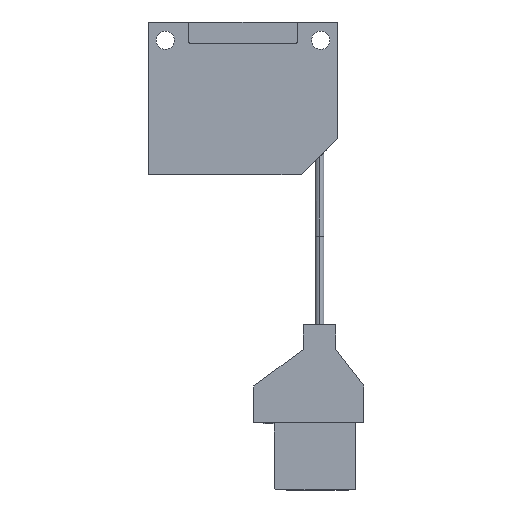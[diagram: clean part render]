
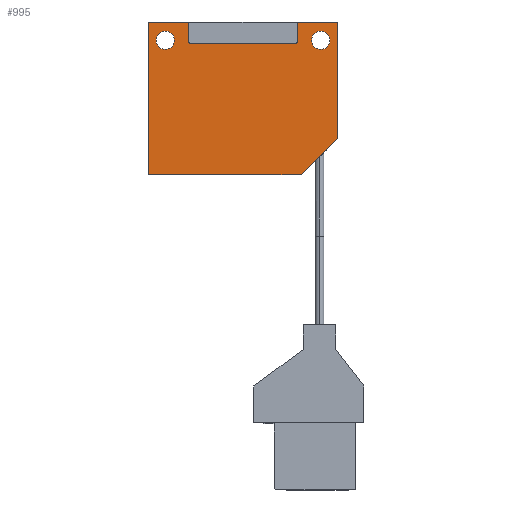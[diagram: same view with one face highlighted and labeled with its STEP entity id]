
A CAD part, left-side view. The second image highlights one B-rep face of the part: STEP entity #995.
In plain terms, the highlighted planar face has unit normal (-1, 0, 0).
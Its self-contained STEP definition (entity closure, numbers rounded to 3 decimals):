
#795 = VERTEX_POINT ( 'NONE', #2705 ) ;
#797 = EDGE_CURVE ( 'NONE', #798, #795, #2704, .T. ) ;
#798 = VERTEX_POINT ( 'NONE', #2700 ) ;
#801 = EDGE_CURVE ( 'NONE', #802, #803, #2755, .T. ) ;
#802 = VERTEX_POINT ( 'NONE', #2750 ) ;
#803 = VERTEX_POINT ( 'NONE', #2749 ) ;
#819 = EDGE_CURVE ( 'NONE', #820, #821, #2786, .T. ) ;
#820 = VERTEX_POINT ( 'NONE', #2778 ) ;
#821 = VERTEX_POINT ( 'NONE', #2777 ) ;
#870 = EDGE_CURVE ( 'NONE', #885, #871, #2866, .T. ) ;
#871 = VERTEX_POINT ( 'NONE', #2862 ) ;
#884 = EDGE_CURVE ( 'NONE', #798, #885, #2847, .T. ) ;
#885 = VERTEX_POINT ( 'NONE', #2843 ) ;
#908 = EDGE_LOOP ( 'NONE', ( #909, #974, #976, #977, #978, #979, #982, #985, #960, #963, #966 ) ) ;
#909 = ORIENTED_EDGE ( 'NONE', *, *, #910, .F. ) ;
#910 = EDGE_CURVE ( 'NONE', #911, #912, #2931, .T. ) ;
#911 = VERTEX_POINT ( 'NONE', #2927 ) ;
#912 = VERTEX_POINT ( 'NONE', #2926 ) ;
#960 = ORIENTED_EDGE ( 'NONE', *, *, #961, .F. ) ;
#961 = EDGE_CURVE ( 'NONE', #962, #987, #2974, .T. ) ;
#962 = VERTEX_POINT ( 'NONE', #3032 ) ;
#963 = ORIENTED_EDGE ( 'NONE', *, *, #964, .F. ) ;
#964 = EDGE_CURVE ( 'NONE', #965, #962, #3031, .T. ) ;
#965 = VERTEX_POINT ( 'NONE', #3027 ) ;
#966 = ORIENTED_EDGE ( 'NONE', *, *, #967, .F. ) ;
#967 = EDGE_CURVE ( 'NONE', #912, #965, #3026, .T. ) ;
#968 = EDGE_LOOP ( 'NONE', ( #969, #971 ) ) ;
#969 = ORIENTED_EDGE ( 'NONE', *, *, #970, .T. ) ;
#970 = EDGE_CURVE ( 'NONE', #803, #802, #3021, .T. ) ;
#971 = ORIENTED_EDGE ( 'NONE', *, *, #801, .T. ) ;
#972 = EDGE_LOOP ( 'NONE', ( #973, #1032 ) ) ;
#973 = ORIENTED_EDGE ( 'NONE', *, *, #1031, .T. ) ;
#974 = ORIENTED_EDGE ( 'NONE', *, *, #975, .F. ) ;
#975 = EDGE_CURVE ( 'NONE', #871, #911, #3016, .T. ) ;
#976 = ORIENTED_EDGE ( 'NONE', *, *, #870, .F. ) ;
#977 = ORIENTED_EDGE ( 'NONE', *, *, #884, .F. ) ;
#978 = ORIENTED_EDGE ( 'NONE', *, *, #797, .T. ) ;
#979 = ORIENTED_EDGE ( 'NONE', *, *, #980, .F. ) ;
#980 = EDGE_CURVE ( 'NONE', #981, #795, #3012, .T. ) ;
#981 = VERTEX_POINT ( 'NONE', #3008 ) ;
#982 = ORIENTED_EDGE ( 'NONE', *, *, #983, .F. ) ;
#983 = EDGE_CURVE ( 'NONE', #984, #981, #3007, .T. ) ;
#984 = VERTEX_POINT ( 'NONE', #3003 ) ;
#985 = ORIENTED_EDGE ( 'NONE', *, *, #986, .F. ) ;
#986 = EDGE_CURVE ( 'NONE', #987, #984, #3068, .T. ) ;
#987 = VERTEX_POINT ( 'NONE', #3064 ) ;
#995 = ADVANCED_FACE ( 'NONE', ( #3053, #3052, #3051 ), #3050, .T. ) ;
#1031 = EDGE_CURVE ( 'NONE', #821, #820, #3125, .T. ) ;
#1032 = ORIENTED_EDGE ( 'NONE', *, *, #819, .T. ) ;
#2700 = CARTESIAN_POINT ( 'NONE',  ( -5.6, 6., -25. ) ) ;
#2701 = DIRECTION ( 'NONE',  ( 0., -0.707, 0.707 ) ) ;
#2702 = VECTOR ( 'NONE', #2701, 1000. ) ;
#2703 = CARTESIAN_POINT ( 'NONE',  ( -5.6, 20.059, -39.059 ) ) ;
#2704 = LINE ( 'NONE', #2703, #2702 ) ;
#2705 = CARTESIAN_POINT ( 'NONE',  ( -5.6, 0., -19. ) ) ;
#2749 = CARTESIAN_POINT ( 'NONE',  ( -5.6, 2.8, -4.5 ) ) ;
#2750 = CARTESIAN_POINT ( 'NONE',  ( -5.6, 2.8, -1.5 ) ) ;
#2751 = DIRECTION ( 'NONE',  ( 0., 0., -1. ) ) ;
#2752 = DIRECTION ( 'NONE',  ( 1., 0., 0. ) ) ;
#2753 = CARTESIAN_POINT ( 'NONE',  ( -5.6, 2.8, -3. ) ) ;
#2754 = AXIS2_PLACEMENT_3D ( 'NONE', #2753, #2752, #2751 ) ;
#2755 = CIRCLE ( 'NONE', #2754, 1.5 ) ;
#2777 = CARTESIAN_POINT ( 'NONE',  ( -5.6, 28.2, -4.5 ) ) ;
#2778 = CARTESIAN_POINT ( 'NONE',  ( -5.6, 28.2, -1.5 ) ) ;
#2779 = DIRECTION ( 'NONE',  ( 0., 0., -1. ) ) ;
#2780 = DIRECTION ( 'NONE',  ( 1., 0., 0. ) ) ;
#2781 = CARTESIAN_POINT ( 'NONE',  ( -5.6, 28.2, -3. ) ) ;
#2782 = AXIS2_PLACEMENT_3D ( 'NONE', #2781, #2780, #2779 ) ;
#2786 = CIRCLE ( 'NONE', #2782, 1.5 ) ;
#2843 = CARTESIAN_POINT ( 'NONE',  ( -5.6, 31., -25. ) ) ;
#2844 = DIRECTION ( 'NONE',  ( 0., 1., 0. ) ) ;
#2845 = VECTOR ( 'NONE', #2844, 1000. ) ;
#2846 = CARTESIAN_POINT ( 'NONE',  ( -5.6, 0., -25. ) ) ;
#2847 = LINE ( 'NONE', #2846, #2845 ) ;
#2862 = CARTESIAN_POINT ( 'NONE',  ( -5.6, 31., 0. ) ) ;
#2863 = DIRECTION ( 'NONE',  ( 0., 0., 1. ) ) ;
#2864 = VECTOR ( 'NONE', #2863, 1000. ) ;
#2865 = CARTESIAN_POINT ( 'NONE',  ( -5.6, 31., 0. ) ) ;
#2866 = LINE ( 'NONE', #2865, #2864 ) ;
#2926 = CARTESIAN_POINT ( 'NONE',  ( -5.6, 24.4, -3.2 ) ) ;
#2927 = CARTESIAN_POINT ( 'NONE',  ( -5.6, 24.4, 0. ) ) ;
#2928 = DIRECTION ( 'NONE',  ( 0., 0., -1. ) ) ;
#2929 = VECTOR ( 'NONE', #2928, 1000. ) ;
#2930 = CARTESIAN_POINT ( 'NONE',  ( -5.6, 24.4, 0. ) ) ;
#2931 = LINE ( 'NONE', #2930, #2929 ) ;
#2971 = DIRECTION ( 'NONE',  ( -1., 0., 0. ) ) ;
#2972 = CARTESIAN_POINT ( 'NONE',  ( -5.6, 6.9, -3.2 ) ) ;
#2973 = AXIS2_PLACEMENT_3D ( 'NONE', #2972, #2971, #3033 ) ;
#2974 = CIRCLE ( 'NONE', #2973, 0.3 ) ;
#3003 = CARTESIAN_POINT ( 'NONE',  ( -5.6, 6.6, 0. ) ) ;
#3004 = DIRECTION ( 'NONE',  ( 0., -1., 0. ) ) ;
#3005 = VECTOR ( 'NONE', #3004, 1000. ) ;
#3006 = CARTESIAN_POINT ( 'NONE',  ( -5.6, 0., 0. ) ) ;
#3007 = LINE ( 'NONE', #3006, #3005 ) ;
#3008 = CARTESIAN_POINT ( 'NONE',  ( -5.6, 0., 0. ) ) ;
#3009 = DIRECTION ( 'NONE',  ( 0., 0., -1. ) ) ;
#3010 = VECTOR ( 'NONE', #3009, 1000. ) ;
#3011 = CARTESIAN_POINT ( 'NONE',  ( -5.6, 0., 0. ) ) ;
#3012 = LINE ( 'NONE', #3011, #3010 ) ;
#3013 = DIRECTION ( 'NONE',  ( 0., -1., 0. ) ) ;
#3014 = VECTOR ( 'NONE', #3013, 1000. ) ;
#3015 = CARTESIAN_POINT ( 'NONE',  ( -5.6, 0., 0. ) ) ;
#3016 = LINE ( 'NONE', #3015, #3014 ) ;
#3017 = DIRECTION ( 'NONE',  ( 0., 0., -1. ) ) ;
#3018 = DIRECTION ( 'NONE',  ( 1., 0., 0. ) ) ;
#3019 = CARTESIAN_POINT ( 'NONE',  ( -5.6, 2.8, -3. ) ) ;
#3020 = AXIS2_PLACEMENT_3D ( 'NONE', #3019, #3018, #3017 ) ;
#3021 = CIRCLE ( 'NONE', #3020, 1.5 ) ;
#3022 = DIRECTION ( 'NONE',  ( 0., 0., 1. ) ) ;
#3023 = DIRECTION ( 'NONE',  ( -1., 0., 0. ) ) ;
#3024 = CARTESIAN_POINT ( 'NONE',  ( -5.6, 24.1, -3.2 ) ) ;
#3025 = AXIS2_PLACEMENT_3D ( 'NONE', #3024, #3023, #3022 ) ;
#3026 = CIRCLE ( 'NONE', #3025, 0.3 ) ;
#3027 = CARTESIAN_POINT ( 'NONE',  ( -5.6, 24.1, -3.5 ) ) ;
#3028 = DIRECTION ( 'NONE',  ( 0., -1., 0. ) ) ;
#3029 = VECTOR ( 'NONE', #3028, 1000. ) ;
#3030 = CARTESIAN_POINT ( 'NONE',  ( -5.6, 24.1, -3.5 ) ) ;
#3031 = LINE ( 'NONE', #3030, #3029 ) ;
#3032 = CARTESIAN_POINT ( 'NONE',  ( -5.6, 6.9, -3.5 ) ) ;
#3033 = DIRECTION ( 'NONE',  ( 0., 0., 1. ) ) ;
#3046 = DIRECTION ( 'NONE',  ( 0., 0., 1. ) ) ;
#3047 = DIRECTION ( 'NONE',  ( -1., 0., 0. ) ) ;
#3048 = CARTESIAN_POINT ( 'NONE',  ( -5.6, 31., 0. ) ) ;
#3049 = AXIS2_PLACEMENT_3D ( 'NONE', #3048, #3047, #3046 ) ;
#3050 = PLANE ( 'NONE',  #3049 ) ;
#3051 = FACE_BOUND ( 'NONE', #972, .T. ) ;
#3052 = FACE_BOUND ( 'NONE', #968, .T. ) ;
#3053 = FACE_OUTER_BOUND ( 'NONE', #908, .T. ) ;
#3064 = CARTESIAN_POINT ( 'NONE',  ( -5.6, 6.6, -3.2 ) ) ;
#3065 = DIRECTION ( 'NONE',  ( 0., 0., 1. ) ) ;
#3066 = VECTOR ( 'NONE', #3065, 1000. ) ;
#3067 = CARTESIAN_POINT ( 'NONE',  ( -5.6, 6.6, -3.2 ) ) ;
#3068 = LINE ( 'NONE', #3067, #3066 ) ;
#3121 = DIRECTION ( 'NONE',  ( 0., 0., -1. ) ) ;
#3122 = DIRECTION ( 'NONE',  ( 1., 0., 0. ) ) ;
#3123 = CARTESIAN_POINT ( 'NONE',  ( -5.6, 28.2, -3. ) ) ;
#3124 = AXIS2_PLACEMENT_3D ( 'NONE', #3123, #3122, #3121 ) ;
#3125 = CIRCLE ( 'NONE', #3124, 1.5 ) ;
